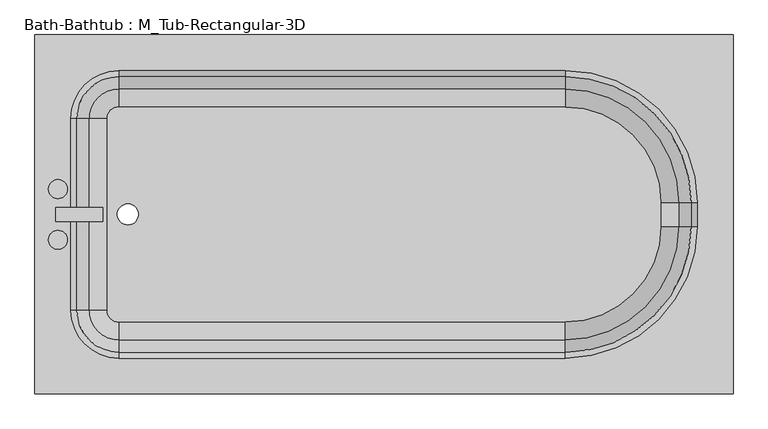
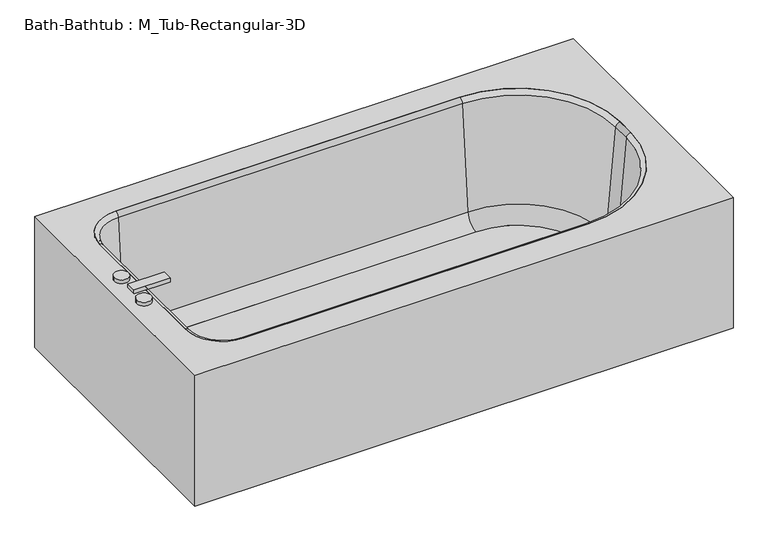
"""IFC4 building model written with IfcOpenShell, lengths in millimetres: flow terminal geometry, Bath-Bathtub : M_Tub-Rectangular-3D."""

from ifc_helpers import new_model, si_unit, point, frame, frame_2d, origin, place, context, project, spatial, polyline, circle_curve, ellipse_curve, trimmed, segment, composite_curve, outline, extrude, source, transform, mapped, element, save
from ifc_brep_helpers import plane_surface, cylinder_surface, revolved_surface, advanced_brep


def bath_bathtub_m_tub_rectangular_3d_991a02ca(model_context):
    return source(origin(), model_context, "Body", "SolidModel", [
        advanced_brep(
        [(368.9470313, -819.15, 380.0), (368.9470313, -57.15, 380.0), (-1110.6029687, -57.15, 380.0), (-1110.6029687, -819.15, 380.0), (-932.8029687, -742.95, 380.0), (-1034.4029687, -641.35, 380.0), (-1034.4029687, -234.95, 380.0), (-932.8029687, -133.35, 380.0), (13.3470313, -133.35, 380.0), (292.7470313, -412.75, 380.0), (292.7470313, -463.55, 380.0), (13.3470313, -742.95, 380.0), (349.8970313, -800.1, 360.95), (-1091.5529687, -800.1, 360.95), (-1091.5529687, -76.2, 360.95), (349.8970313, -76.2, 360.95), (-932.8029687, -742.95, 360.95), (13.3470313, -742.95, 360.95), (292.7470313, -463.55, 360.95), (292.7470313, -412.75, 360.95), (13.3470313, -133.35, 360.95), (-932.8029687, -133.35, 360.95), (-1034.4029687, -234.95, 360.95), (-1034.4029687, -641.35, 360.95), (-1110.6029687, -819.15, 0.0), (368.9470313, -819.15, 0.0), (-1110.6029687, -57.15, 0.0), (368.9470313, -57.15, 0.0), (349.8970313, -800.1, 0.0), (349.8970313, -76.2, 0.0), (-1091.5529687, -76.2, 0.0), (-1091.5529687, -800.1, 0.0)],
        [
            (0, 1),
            (1, 2),
            (2, 3),
            (3, 0),
            (4, 5, circle_curve(frame((-932.8029687, -641.35, 380.0), z_axis=(0.0, 0.0, -1.0), x_axis=(0.0, -1.0, 0.0)), 101.6)),
            (5, 6),
            (6, 7, circle_curve(frame((-932.8029687, -234.95, 380.0), z_axis=(0.0, 0.0, -1.0), x_axis=(0.0, -1.0, 0.0)), 101.6)),
            (7, 8),
            (8, 9, circle_curve(frame((13.3470313, -412.75, 380.0), z_axis=(0.0, 0.0, -1.0), x_axis=(0.0, -1.0, 0.0)), 279.4)),
            (9, 10),
            (10, 11, circle_curve(frame((13.3470313, -463.55, 380.0), z_axis=(0.0, 0.0, -1.0), x_axis=(0.0, -1.0, 0.0)), 279.4)),
            (11, 4),
            (12, 13),
            (13, 14),
            (14, 15),
            (15, 12),
            (16, 17),
            (17, 18, circle_curve(frame((13.3470313, -463.55, 360.95), z_axis=(0.0, 0.0, 1.0), x_axis=(0.0, -1.0, 0.0)), 279.4)),
            (18, 19),
            (19, 20, circle_curve(frame((13.3470313, -412.75, 360.95), z_axis=(0.0, 0.0, 1.0), x_axis=(0.0, -1.0, 0.0)), 279.4)),
            (20, 21),
            (21, 22, circle_curve(frame((-932.8029687, -234.95, 360.95), z_axis=(0.0, 0.0, 1.0), x_axis=(0.0, -1.0, 0.0)), 101.6)),
            (22, 23),
            (23, 16, circle_curve(frame((-932.8029687, -641.35, 360.95), z_axis=(0.0, 0.0, 1.0), x_axis=(0.0, -1.0, 0.0)), 101.6)),
            (3, 24),
            (24, 25),
            (25, 0),
            (2, 26),
            (26, 24),
            (1, 27),
            (27, 26),
            (25, 27),
            (11, 17),
            (16, 4),
            (10, 18),
            (9, 19),
            (8, 20),
            (7, 21),
            (6, 22),
            (5, 23),
            (28, 29),
            (29, 30),
            (30, 31),
            (31, 28),
            (28, 12),
            (15, 29),
            (14, 30),
            (13, 31),
        ],
        [
            plane_surface(frame((-1110.6029687, -819.15, 380.0), z_axis=(0.0, 0.0, 1.0), x_axis=(-1.0, 0.0, 0.0))),
            plane_surface(frame((-1110.6029687, -819.15, 360.95), z_axis=(0.0, 0.0, -1.0), x_axis=(1.0, 0.0, 0.0))),
            plane_surface(frame((368.9470313, -819.15, 380.0), z_axis=(0.0, -1.0, 0.0), x_axis=(0.0, 0.0, -1.0))),
            plane_surface(frame((-1110.6029687, -819.15, 380.0), z_axis=(-1.0, 0.0, 0.0), x_axis=(0.0, 0.0, -1.0))),
            plane_surface(frame((-1110.6029687, -57.15, 380.0), z_axis=(0.0, 1.0, 0.0), x_axis=(0.0, 0.0, -1.0))),
            plane_surface(frame((368.9470313, -57.15, 380.0), z_axis=(1.0, 0.0, 0.0), x_axis=(0.0, 0.0, -1.0))),
            plane_surface(frame((-932.8029687, -742.95, 380.0), z_axis=(0.0, 1.0, 0.0), x_axis=(0.0, 0.0, -1.0))),
            revolved_surface(polyline([(13.3470313, -742.95, 360.95), (13.3470313, -742.95, 380.0)]), (13.3470313, -463.55, 380.0), (0.0, 0.0, -1.0)),
            plane_surface(frame((292.7470313, -463.55, 380.0), z_axis=(-1.0, 0.0, 0.0), x_axis=(0.0, 0.0, -1.0))),
            revolved_surface(polyline([(13.3470313, -692.15, 360.95), (13.3470313, -692.15, 380.0)]), (13.3470313, -412.75, 380.0), (0.0, 0.0, -1.0)),
            plane_surface(frame((13.3470313, -133.35, 380.0), z_axis=(0.0, -1.0, 0.0), x_axis=(0.0, 0.0, -1.0))),
            revolved_surface(polyline([(-932.8029687, -336.54999999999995, 360.95), (-932.8029687, -336.54999999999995, 380.0)]), (-932.8029687, -234.95, 380.0), (0.0, 0.0, -1.0)),
            plane_surface(frame((-1034.4029687, -234.95, 380.0), z_axis=(1.0, 0.0, 0.0), x_axis=(0.0, 0.0, -1.0))),
            revolved_surface(polyline([(-932.8029687, -742.95, 360.95), (-932.8029687, -742.95, 380.0)]), (-932.8029687, -641.35, 380.0), (0.0, 0.0, -1.0)),
            plane_surface(frame((-1110.6029687, -819.15, 0.0), z_axis=(0.0, 0.0, -1.0), x_axis=(1.0, 0.0, 0.0))),
            plane_surface(frame((349.8970313, -800.1, 360.95), z_axis=(-1.0, 0.0, 0.0), x_axis=(0.0, 0.0, -1.0))),
            plane_surface(frame((349.8970313, -76.2, 360.95), z_axis=(0.0, -1.0, 0.0), x_axis=(0.0, 0.0, -1.0))),
            plane_surface(frame((-1091.5529687, -76.2, 360.95), z_axis=(1.0, 0.0, 0.0), x_axis=(0.0, 0.0, -1.0))),
            plane_surface(frame((-1091.5529687, -800.1, 360.95), z_axis=(0.0, 1.0, 0.0), x_axis=(0.0, 0.0, -1.0))),
        ],
        [
            (0, [[1, 2, 3, 4], [5, 6, 7, 8, 9, 10, 11, 12]]),
            (1, [[13, 14, 15, 16], [17, 18, 19, 20, 21, 22, 23, 24]]),
            (2, [[25, 26, 27, -4]]),
            (3, [[28, 29, -25, -3]]),
            (4, [[30, 31, -28, -2]]),
            (5, [[32, -30, -1, -27]]),
            (6, [[33, -17, 34, -12]]),
            (7, [[35, -18, -33, -11]]),
            (8, [[36, -19, -35, -10]]),
            (9, [[37, -20, -36, -9]]),
            (10, [[38, -21, -37, -8]]),
            (11, [[39, -22, -38, -7]]),
            (12, [[40, -23, -39, -6]]),
            (13, [[-34, -24, -40, -5]]),
            (14, [[-26, -29, -31, -32], [41, 42, 43, 44]]),
            (15, [[45, -16, 46, -41]]),
            (16, [[-46, -15, 47, -42]]),
            (17, [[-47, -14, 48, -43]]),
            (18, [[-48, -13, -45, -44]]),
        ],
    ),
        extrude(outline(composite_curve([segment(polyline([(13.3470313, -666.3464741), (-932.8029687, -666.3464741)]), True, "CONTINUOUS"), segment(trimmed(circle_curve(frame_2d((-932.8029687, -641.35)), 24.9964741), [point((-932.8029687, -666.3464741))], [point((-957.7994428, -641.35))], False, "CARTESIAN"), True, "CONTINUOUS"), segment(polyline([(-957.7994428, -641.35), (-957.7994428, -234.95)]), True, "CONTINUOUS"), segment(trimmed(circle_curve(frame_2d((-932.8029687, -234.95)), 24.9964741), [point((-957.7994428, -234.95))], [point((-932.8029687, -209.9535259))], False, "CARTESIAN"), True, "CONTINUOUS"), segment(polyline([(-932.8029687, -209.9535259), (13.3470313, -209.9535259)]), True, "CONTINUOUS"), segment(trimmed(circle_curve(frame_2d((13.3470313, -412.75)), 202.7964741), [point((13.3470313, -209.9535259))], [point((216.1435054, -412.75))], False, "CARTESIAN"), True, "CONTINUOUS"), segment(polyline([(216.1435054, -412.75), (216.1435054, -463.55)]), True, "CONTINUOUS"), segment(trimmed(circle_curve(frame_2d((13.3470313, -463.55)), 202.7964741), [point((216.1435054, -463.55))], [point((13.3470313, -666.3464741))], False, "CARTESIAN"), True, "CONTINUOUS")], self_intersect=False), holes=[composite_curve([segment(trimmed(circle_curve(frame_2d((-913.5971625, -438.15)), 22.225), [point((-913.5971625, -460.375))], [point((-913.5971625, -415.925))], True, "CARTESIAN"), True, "CONTINUOUS"), segment(trimmed(circle_curve(frame_2d((-913.5971625, -438.15)), 22.225), [point((-913.5971625, -415.925))], [point((-913.5971625, -460.375))], True, "CARTESIAN"), True, "CONTINUOUS")], self_intersect=False)]), frame((0.0, 0.0, 15.863573), z_axis=(0.0, 0.0, 1.0), x_axis=(1.0, 0.0, 0.0)), (0.0, 0.0, 1.0), 19.05),
        advanced_brep(
        [(-995.7544608, -641.35, 69.6929392), (-1021.9249722, -641.35, 368.8232535), (-932.8029687, -730.4720035, 368.8232535), (-932.8029687, -704.3014921, 69.6929392), (-957.7994428, -641.35, 34.913573), (-932.8029687, -666.3464741, 34.913573), (-957.7994428, -641.35, 15.863573), (-932.8029687, -666.3464741, 15.863573), (-1034.4029687, -641.35, 15.863573), (-932.8029687, -742.95, 15.863573), (-1034.4029687, -641.35, 380.0), (-932.8029687, -742.95, 380.0), (-995.7544608, -234.95, 69.6929392), (-1021.9249722, -234.95, 368.8232535), (-957.7994428, -234.95, 34.913573), (-957.7994428, -234.95, 15.863573), (-1034.4029687, -234.95, 15.863573), (-1034.4029687, -234.95, 380.0), (-932.8029687, -171.9985079, 69.6929392), (-932.8029687, -145.8279965, 368.8232535), (-932.8029687, -209.9535259, 34.913573), (-932.8029687, -209.9535259, 15.863573), (-932.8029687, -133.35, 15.863573), (-932.8029687, -133.35, 380.0), (13.3470313, -171.9985079, 69.6929392), (13.3470313, -145.8279965, 368.8232535), (13.3470313, -209.9535259, 34.913573), (13.3470313, -209.9535259, 15.863573), (13.3470313, -133.35, 15.863573), (13.3470313, -133.35, 380.0), (254.0985234, -412.75, 69.6929392), (280.2690348, -412.75, 368.8232535), (216.1435054, -412.75, 34.913573), (216.1435054, -412.75, 15.863573), (292.7470313, -412.75, 15.863573), (292.7470313, -412.75, 380.0), (254.0985234, -463.55, 69.6929392), (280.2690348, -463.55, 368.8232535), (216.1435054, -463.55, 34.913573), (216.1435054, -463.55, 15.863573), (292.7470313, -463.55, 15.863573), (292.7470313, -463.55, 380.0), (13.3470313, -704.3014921, 69.6929392), (13.3470313, -730.4720035, 368.8232535), (13.3470313, -666.3464741, 34.913573), (13.3470313, -666.3464741, 15.863573), (13.3470313, -742.95, 15.863573), (13.3470313, -742.95, 380.0)],
        [
            (0, 1),
            (1, 2, circle_curve(frame((-932.8029687, -641.35, 368.8232535), z_axis=(0.0, 0.0, 1.0), x_axis=(0.0, -1.0, 0.0)), 89.1220035)),
            (2, 3),
            (3, 0, circle_curve(frame((-932.8029687, -641.35, 69.6929392), z_axis=(0.0, 0.0, -1.0), x_axis=(0.0, -1.0, 0.0)), 62.9514921)),
            (4, 0, circle_curve(frame((-957.7994428, -641.35, 73.013573), z_axis=(0.0, 1.0, 0.0), x_axis=(1.0, 0.0, 0.0)), 38.1)),
            (3, 5, circle_curve(frame((-932.8029687, -666.3464741, 73.013573), z_axis=(1.0, 0.0, 0.0), x_axis=(0.0, 1.0, 0.0)), 38.1)),
            (5, 4, circle_curve(frame((-932.8029687, -641.35, 34.913573), z_axis=(0.0, 0.0, -1.0), x_axis=(0.0, -1.0, 0.0)), 24.9964741)),
            (6, 4),
            (5, 7),
            (7, 6, circle_curve(frame((-932.8029687, -641.35, 15.863573), z_axis=(0.0, 0.0, -1.0), x_axis=(0.0, -1.0, 0.0)), 24.9964741)),
            (8, 6),
            (7, 9),
            (9, 8, circle_curve(frame((-932.8029687, -641.35, 15.863573), z_axis=(0.0, 0.0, -1.0), x_axis=(0.0, -1.0, 0.0)), 101.6)),
            (10, 8),
            (9, 11),
            (11, 10, circle_curve(frame((-932.8029687, -641.35, 380.0), z_axis=(0.0, 0.0, -1.0), x_axis=(0.0, -1.0, 0.0)), 101.6)),
            (1, 10, circle_curve(frame((-1034.4029687, -641.35, 367.4462547), z_axis=(0.0, -1.0, 0.0), x_axis=(1.0, 0.0, 0.0)), 12.5537453)),
            (11, 2, circle_curve(frame((-932.8029687, -742.95, 367.4462547), z_axis=(-1.0, 0.0, 0.0), x_axis=(0.0, 1.0, 0.0)), 12.5537453)),
            (0, 12),
            (12, 13),
            (13, 1),
            (4, 14),
            (14, 12, circle_curve(frame((-957.7994428, -234.95, 73.013573), z_axis=(0.0, 1.0, 0.0), x_axis=(1.0, 0.0, 0.0)), 38.1)),
            (6, 15),
            (15, 14),
            (8, 16),
            (16, 15),
            (10, 17),
            (17, 16),
            (13, 17, circle_curve(frame((-1034.4029687, -234.95, 367.4462547), z_axis=(0.0, -1.0, 0.0), x_axis=(1.0, 0.0, 0.0)), 12.5537453)),
            (18, 19),
            (19, 13, circle_curve(frame((-932.8029687, -234.95, 368.8232535), z_axis=(0.0, 0.0, 1.0), x_axis=(-1.0, 0.0, 0.0)), 89.1220035)),
            (12, 18, circle_curve(frame((-932.8029687, -234.95, 69.6929392), z_axis=(0.0, 0.0, -1.0), x_axis=(-1.0, 0.0, 0.0)), 62.9514921)),
            (20, 18, circle_curve(frame((-932.8029687, -209.9535259, 73.013573), z_axis=(1.0, 0.0, 0.0), x_axis=(0.0, -1.0, 0.0)), 38.1)),
            (14, 20, circle_curve(frame((-932.8029687, -234.95, 34.913573), z_axis=(0.0, 0.0, -1.0), x_axis=(-1.0, 0.0, 0.0)), 24.9964741)),
            (21, 20),
            (15, 21, circle_curve(frame((-932.8029687, -234.95, 15.863573), z_axis=(0.0, 0.0, -1.0), x_axis=(-1.0, 0.0, 0.0)), 24.9964741)),
            (22, 21),
            (16, 22, circle_curve(frame((-932.8029687, -234.95, 15.863573), z_axis=(0.0, 0.0, -1.0), x_axis=(-1.0, 0.0, 0.0)), 101.6)),
            (23, 22),
            (17, 23, circle_curve(frame((-932.8029687, -234.95, 380.0), z_axis=(0.0, 0.0, -1.0), x_axis=(-1.0, 0.0, 0.0)), 101.6)),
            (19, 23, circle_curve(frame((-932.8029687, -133.35, 367.4462547), z_axis=(-1.0, 0.0, 0.0), x_axis=(0.0, -1.0, 0.0)), 12.5537453)),
            (18, 24),
            (24, 25),
            (25, 19),
            (20, 26),
            (26, 24, circle_curve(frame((13.3470313, -209.9535259, 73.013573), z_axis=(1.0, 0.0, 0.0), x_axis=(0.0, -1.0, 0.0)), 38.1)),
            (21, 27),
            (27, 26),
            (22, 28),
            (28, 27),
            (23, 29),
            (29, 28),
            (25, 29, circle_curve(frame((13.3470313, -133.35, 367.4462547), z_axis=(-1.0, 0.0, 0.0), x_axis=(0.0, -1.0, 0.0)), 12.5537453)),
            (30, 31),
            (31, 25, circle_curve(frame((13.3470313, -412.75, 368.8232535), z_axis=(0.0, 0.0, 1.0), x_axis=(0.0, 1.0, 0.0)), 266.9220035)),
            (24, 30, circle_curve(frame((13.3470313, -412.75, 69.6929392), z_axis=(0.0, 0.0, -1.0), x_axis=(0.0, 1.0, 0.0)), 240.7514921)),
            (32, 30, circle_curve(frame((216.1435054, -412.75, 73.013573), z_axis=(0.0, -1.0, 0.0), x_axis=(-1.0, 0.0, 0.0)), 38.1)),
            (26, 32, circle_curve(frame((13.3470313, -412.75, 34.913573), z_axis=(0.0, 0.0, -1.0), x_axis=(0.0, 1.0, 0.0)), 202.7964741)),
            (33, 32),
            (27, 33, circle_curve(frame((13.3470313, -412.75, 15.863573), z_axis=(0.0, 0.0, -1.0), x_axis=(0.0, 1.0, 0.0)), 202.7964741)),
            (34, 33),
            (28, 34, circle_curve(frame((13.3470313, -412.75, 15.863573), z_axis=(0.0, 0.0, -1.0), x_axis=(0.0, 1.0, 0.0)), 279.4)),
            (35, 34),
            (29, 35, circle_curve(frame((13.3470313, -412.75, 380.0), z_axis=(0.0, 0.0, -1.0), x_axis=(0.0, 1.0, 0.0)), 279.4)),
            (31, 35, circle_curve(frame((292.7470313, -412.75, 367.4462547), z_axis=(0.0, 1.0, 0.0), x_axis=(-1.0, 0.0, 0.0)), 12.5537453)),
            (30, 36),
            (36, 37),
            (37, 31),
            (32, 38),
            (38, 36, circle_curve(frame((216.1435054, -463.55, 73.013573), z_axis=(0.0, -1.0, 0.0), x_axis=(-1.0, 0.0, 0.0)), 38.1)),
            (33, 39),
            (39, 38),
            (34, 40),
            (40, 39),
            (35, 41),
            (41, 40),
            (37, 41, circle_curve(frame((292.7470313, -463.55, 367.4462547), z_axis=(0.0, 1.0, 0.0), x_axis=(-1.0, 0.0, 0.0)), 12.5537453)),
            (42, 43),
            (43, 37, circle_curve(frame((13.3470313, -463.55, 368.8232535), z_axis=(0.0, 0.0, 1.0), x_axis=(1.0, 0.0, 0.0)), 266.9220035)),
            (36, 42, circle_curve(frame((13.3470313, -463.55, 69.6929392), z_axis=(0.0, 0.0, -1.0), x_axis=(1.0, 0.0, 0.0)), 240.7514921)),
            (44, 42, circle_curve(frame((13.3470313, -666.3464741, 73.013573), z_axis=(-1.0, 0.0, 0.0), x_axis=(0.0, 1.0, 0.0)), 38.1)),
            (38, 44, circle_curve(frame((13.3470313, -463.55, 34.913573), z_axis=(0.0, 0.0, -1.0), x_axis=(1.0, 0.0, 0.0)), 202.7964741)),
            (45, 44),
            (39, 45, circle_curve(frame((13.3470313, -463.55, 15.863573), z_axis=(0.0, 0.0, -1.0), x_axis=(1.0, 0.0, 0.0)), 202.7964741)),
            (46, 45),
            (40, 46, circle_curve(frame((13.3470313, -463.55, 15.863573), z_axis=(0.0, 0.0, -1.0), x_axis=(1.0, 0.0, 0.0)), 279.4)),
            (47, 46),
            (41, 47, circle_curve(frame((13.3470313, -463.55, 380.0), z_axis=(0.0, 0.0, -1.0), x_axis=(1.0, 0.0, 0.0)), 279.4)),
            (43, 47, circle_curve(frame((13.3470313, -742.95, 367.4462547), z_axis=(1.0, 0.0, 0.0), x_axis=(0.0, 1.0, 0.0)), 12.5537453)),
            (42, 3),
            (2, 43),
            (44, 5),
            (45, 7),
            (46, 9),
            (47, 11),
        ],
        [
            revolved_surface(polyline([(-932.8029687, -730.4720035, 368.8232535), (-932.8029687, -704.3014921, 69.6929392)]), (-932.8029687, -641.35, 380.0), (0.0, 0.0, 1.0)),
            revolved_surface(trimmed(ellipse_curve(frame((-932.8029687, -666.3464741, 73.013573), z_axis=(1.0, 0.0, 0.0), x_axis=(0.0, 1.0, 0.0)), 38.1, 38.1), [point((-932.8029687, -704.3014921, 69.6929392))], [point((-932.8029687, -666.3464741, 34.913573))], True, "CARTESIAN"), (-932.8029687, -641.35, 380.0), (0.0, 0.0, 1.0)),
            revolved_surface(polyline([(-932.8029687, -666.3464741, 34.913572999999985), (-932.8029687, -666.3464741, 15.863572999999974)]), (-932.8029687, -641.35, 380.0), (0.0, 0.0, 1.0)),
            plane_surface(frame((-932.8029687, -641.35, 15.863573), z_axis=(0.0, 0.0, -1.0), x_axis=(0.0, -1.0, 0.0))),
            cylinder_surface(frame((-932.8029687, -641.35, 380.0), z_axis=(0.0, 0.0, 1.0), x_axis=(0.0, -1.0, 0.0)), 101.6),
            revolved_surface(trimmed(ellipse_curve(frame((-932.8029687, -742.95, 367.4462547), z_axis=(-1.0, 0.0, 0.0), x_axis=(0.0, 1.0, 0.0)), 12.5537453, 12.5537453), [point((-932.8029687, -742.95, 380.0))], [point((-932.8029687, -730.4720035, 368.8232535))], True, "CARTESIAN"), (-932.8029687, -641.35, 380.0), (0.0, 0.0, 1.0)),
            plane_surface(frame((-1021.9249722, -641.35, 368.8232535), z_axis=(0.9961946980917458, 0.0, 0.08715574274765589), x_axis=(0.0, 1.0, 0.0))),
            revolved_surface(polyline([(-919.6994427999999, -234.95, 73.013573), (-919.6994427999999, -641.35, 73.013573)]), (-957.7994428, -641.35, 73.013573), (0.0, 1.0, 0.0)),
            plane_surface(frame((-957.7994428, -641.35, 34.913573), z_axis=(1.0, 0.0, 0.0), x_axis=(0.0, 1.0, 0.0))),
            plane_surface(frame((-957.7994428, -641.35, 15.863573), z_axis=(0.0, 0.0, -1.0), x_axis=(0.0, 1.0, 0.0))),
            plane_surface(frame((-1034.4029687, -641.35, 15.863573), z_axis=(-1.0, 0.0, 0.0), x_axis=(0.0, 1.0, 0.0))),
            cylinder_surface(frame((-1034.4029687, -641.35, 367.4462547), z_axis=(0.0, -1.0, 0.0), x_axis=(1.0, 0.0, 0.0)), 12.5537453),
            revolved_surface(polyline([(-1021.9249722, -234.95, 368.8232535), (-995.7544608, -234.95, 69.6929392)]), (-932.8029687, -234.95, 380.0), (0.0, 0.0, 1.0)),
            revolved_surface(trimmed(ellipse_curve(frame((-957.7994428, -234.95, 73.013573), z_axis=(0.0, -1.0, 0.0), x_axis=(1.0, 0.0, 0.0)), 38.1, 38.1), [point((-995.7544608, -234.95, 69.6929392))], [point((-957.7994428, -234.95, 34.913573))], True, "CARTESIAN"), (-932.8029687, -234.95, 380.0), (0.0, 0.0, 1.0)),
            revolved_surface(polyline([(-957.7994428, -234.95, 34.913572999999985), (-957.7994428, -234.95, 15.863572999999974)]), (-932.8029687, -234.95, 380.0), (0.0, 0.0, 1.0)),
            plane_surface(frame((-932.8029687, -234.95, 15.863573), z_axis=(0.0, 0.0, -1.0), x_axis=(-1.0, 0.0, 0.0))),
            cylinder_surface(frame((-932.8029687, -234.95, 380.0), z_axis=(0.0, 0.0, 1.0), x_axis=(-1.0, 0.0, 0.0)), 101.6),
            revolved_surface(trimmed(ellipse_curve(frame((-1034.4029687, -234.95, 367.4462547), z_axis=(0.0, 1.0, 0.0), x_axis=(1.0, 0.0, 0.0)), 12.5537453, 12.5537453), [point((-1034.4029687, -234.95, 380.0))], [point((-1021.9249722, -234.95, 368.8232535))], True, "CARTESIAN"), (-932.8029687, -234.95, 380.0), (0.0, 0.0, 1.0)),
            plane_surface(frame((-932.8029687, -145.8279965, 368.8232535), z_axis=(0.0, -0.9961946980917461, 0.08715574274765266), x_axis=(1.0, 0.0, 0.0))),
            revolved_surface(polyline([(13.347031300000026, -248.05352589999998, 73.013573), (-932.8029687, -248.05352589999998, 73.013573)]), (-932.8029687, -209.9535259, 73.013573), (1.0, 0.0, 0.0)),
            plane_surface(frame((-932.8029687, -209.9535259, 34.913573), z_axis=(0.0, -1.0, 0.0), x_axis=(1.0, 0.0, 0.0))),
            plane_surface(frame((-932.8029687, -209.9535259, 15.863573), z_axis=(0.0, 0.0, -1.0), x_axis=(1.0, 0.0, 0.0))),
            plane_surface(frame((-932.8029687, -133.35, 15.863573), z_axis=(0.0, 1.0, 0.0), x_axis=(1.0, 0.0, 0.0))),
            cylinder_surface(frame((-932.8029687, -133.35, 367.4462547), z_axis=(-1.0, 0.0, 0.0), x_axis=(0.0, -1.0, 0.0)), 12.5537453),
            revolved_surface(polyline([(13.3470313, -145.8279965, 368.8232535), (13.3470313, -171.9985079, 69.6929392)]), (13.3470313, -412.75, 380.0), (0.0, 0.0, 1.0)),
            revolved_surface(trimmed(ellipse_curve(frame((13.3470313, -209.9535259, 73.013573), z_axis=(-1.0, 0.0, 0.0), x_axis=(0.0, -1.0, 0.0)), 38.1, 38.1), [point((13.3470313, -171.9985079, 69.6929392))], [point((13.3470313, -209.9535259, 34.913573))], True, "CARTESIAN"), (13.3470313, -412.75, 380.0), (0.0, 0.0, 1.0)),
            revolved_surface(polyline([(13.3470313, -209.9535259, 34.913572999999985), (13.3470313, -209.9535259, 15.863572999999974)]), (13.3470313, -412.75, 380.0), (0.0, 0.0, 1.0)),
            plane_surface(frame((13.3470313, -412.75, 15.863573), z_axis=(0.0, 0.0, -1.0), x_axis=(0.0, 1.0, 0.0))),
            cylinder_surface(frame((13.3470313, -412.75, 380.0), z_axis=(0.0, 0.0, 1.0), x_axis=(0.0, 1.0, 0.0)), 279.4),
            revolved_surface(trimmed(ellipse_curve(frame((13.3470313, -133.35, 367.4462547), z_axis=(1.0, 0.0, 0.0), x_axis=(0.0, -1.0, 0.0)), 12.5537453, 12.5537453), [point((13.3470313, -133.35, 380.0))], [point((13.3470313, -145.8279965, 368.8232535))], True, "CARTESIAN"), (13.3470313, -412.75, 380.0), (0.0, 0.0, 1.0)),
            plane_surface(frame((280.2690348, -412.75, 368.8232535), z_axis=(-0.9961946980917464, 0.0, 0.08715574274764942), x_axis=(0.0, -1.0, 0.0))),
            revolved_surface(polyline([(178.04350540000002, -463.55, 73.013573), (178.04350540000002, -412.75, 73.013573)]), (216.1435054, -412.75, 73.013573), (0.0, -1.0, 0.0)),
            plane_surface(frame((216.1435054, -412.75, 34.913573), z_axis=(-1.0, 0.0, 0.0), x_axis=(0.0, -1.0, 0.0))),
            plane_surface(frame((216.1435054, -412.75, 15.863573), z_axis=(0.0, 0.0, -1.0), x_axis=(0.0, -1.0, 0.0))),
            plane_surface(frame((292.7470313, -412.75, 15.863573), z_axis=(1.0, 0.0, 0.0), x_axis=(0.0, -1.0, 0.0))),
            cylinder_surface(frame((292.7470313, -412.75, 367.4462547), z_axis=(0.0, 1.0, 0.0), x_axis=(-1.0, 0.0, 0.0)), 12.5537453),
            revolved_surface(polyline([(280.2690348, -463.55, 368.8232535), (254.0985234, -463.55, 69.6929392)]), (13.3470313, -463.55, 380.0), (0.0, 0.0, 1.0)),
            revolved_surface(trimmed(ellipse_curve(frame((216.1435054, -463.55, 73.013573), z_axis=(0.0, 1.0, 0.0), x_axis=(-1.0, 0.0, 0.0)), 38.1, 38.1), [point((254.0985234, -463.55, 69.6929392))], [point((216.1435054, -463.55, 34.913573))], True, "CARTESIAN"), (13.3470313, -463.55, 380.0), (0.0, 0.0, 1.0)),
            revolved_surface(polyline([(216.1435054, -463.55, 34.913572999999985), (216.1435054, -463.55, 15.863572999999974)]), (13.3470313, -463.55, 380.0), (0.0, 0.0, 1.0)),
            plane_surface(frame((13.3470313, -463.55, 15.863573), z_axis=(0.0, 0.0, -1.0), x_axis=(1.0, 0.0, 0.0))),
            cylinder_surface(frame((13.3470313, -463.55, 380.0), z_axis=(0.0, 0.0, 1.0), x_axis=(1.0, 0.0, 0.0)), 279.4),
            revolved_surface(trimmed(ellipse_curve(frame((292.7470313, -463.55, 367.4462547), z_axis=(0.0, -1.0, 0.0), x_axis=(-1.0, 0.0, 0.0)), 12.5537453, 12.5537453), [point((292.7470313, -463.55, 380.0))], [point((280.2690348, -463.55, 368.8232535))], True, "CARTESIAN"), (13.3470313, -463.55, 380.0), (0.0, 0.0, 1.0)),
            plane_surface(frame((13.3470313, -730.4720035, 368.8232535), z_axis=(0.0, 0.9961946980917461, 0.08715574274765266), x_axis=(-1.0, 0.0, 0.0))),
            revolved_surface(polyline([(-932.8029687, -628.2464741, 73.013573), (13.3470313, -628.2464741, 73.013573)]), (13.3470313, -666.3464741, 73.013573), (-1.0, 0.0, 0.0)),
            plane_surface(frame((13.3470313, -666.3464741, 34.913573), z_axis=(0.0, 1.0, 0.0), x_axis=(-1.0, 0.0, 0.0))),
            plane_surface(frame((13.3470313, -666.3464741, 15.863573), z_axis=(0.0, 0.0, -1.0), x_axis=(-1.0, 0.0, 0.0))),
            plane_surface(frame((13.3470313, -742.95, 15.863573), z_axis=(0.0, -1.0, 0.0), x_axis=(-1.0, 0.0, 0.0))),
            cylinder_surface(frame((13.3470313, -742.95, 367.4462547), z_axis=(1.0, 0.0, 0.0), x_axis=(0.0, 1.0, 0.0)), 12.5537453),
        ],
        [
            (0, [[1, 2, 3, 4]]),
            (1, [[5, -4, 6, 7]]),
            (2, [[8, -7, 9, 10]]),
            (3, [[11, -10, 12, 13]]),
            (4, [[14, -13, 15, 16]]),
            (5, [[17, -16, 18, -2]]),
            (6, [[19, 20, 21, -1]]),
            (7, [[22, 23, -19, -5]]),
            (8, [[24, 25, -22, -8]]),
            (9, [[26, 27, -24, -11]]),
            (10, [[28, 29, -26, -14]]),
            (11, [[-21, 30, -28, -17]]),
            (12, [[31, 32, -20, 33]]),
            (13, [[34, -33, -23, 35]]),
            (14, [[36, -35, -25, 37]]),
            (15, [[38, -37, -27, 39]]),
            (16, [[40, -39, -29, 41]]),
            (17, [[42, -41, -30, -32]]),
            (18, [[43, 44, 45, -31]]),
            (19, [[46, 47, -43, -34]]),
            (20, [[48, 49, -46, -36]]),
            (21, [[50, 51, -48, -38]]),
            (22, [[52, 53, -50, -40]]),
            (23, [[-45, 54, -52, -42]]),
            (24, [[55, 56, -44, 57]]),
            (25, [[58, -57, -47, 59]]),
            (26, [[60, -59, -49, 61]]),
            (27, [[62, -61, -51, 63]]),
            (28, [[64, -63, -53, 65]]),
            (29, [[66, -65, -54, -56]]),
            (30, [[67, 68, 69, -55]]),
            (31, [[70, 71, -67, -58]]),
            (32, [[72, 73, -70, -60]]),
            (33, [[74, 75, -72, -62]]),
            (34, [[76, 77, -74, -64]]),
            (35, [[-69, 78, -76, -66]]),
            (36, [[79, 80, -68, 81]]),
            (37, [[82, -81, -71, 83]]),
            (38, [[84, -83, -73, 85]]),
            (39, [[86, -85, -75, 87]]),
            (40, [[88, -87, -77, 89]]),
            (41, [[90, -89, -78, -80]]),
            (42, [[91, -3, 92, -79]]),
            (43, [[93, -6, -91, -82]]),
            (44, [[94, -9, -93, -84]]),
            (45, [[95, -12, -94, -86]]),
            (46, [[96, -15, -95, -88]]),
            (47, [[-92, -18, -96, -90]]),
        ],
    ),
        extrude(outline(polyline([(-1066.8328759, -453.15), (-1066.8328759, -423.15), (-966.8328759, -423.15), (-966.8328759, -453.15), (-1066.8328759, -453.15)])), frame((0.0, 0.0, 380.0), z_axis=(0.0, 0.0, 1.0), x_axis=(1.0, 0.0, 0.0)), (0.0, 0.0, 1.0), 10.6738596),
        extrude(outline(composite_curve([segment(trimmed(circle_curve(frame_2d((-1061.8660369, -491.8447376)), 20.0), [point((-1041.8660369, -491.8447376))], [point((-1081.8660369, -491.8447376))], False, "CARTESIAN"), True, "CONTINUOUS"), segment(trimmed(circle_curve(frame_2d((-1061.8660369, -491.8447376)), 20.0), [point((-1081.8660369, -491.8447376))], [point((-1041.8660369, -491.8447376))], False, "CARTESIAN"), True, "CONTINUOUS")], self_intersect=False)), frame((0.0, 0.0, 380.0), z_axis=(0.0, 0.0, 1.0), x_axis=(1.0, 0.0, 0.0)), (0.0, 0.0, 1.0), 10.6738596),
        extrude(outline(composite_curve([segment(trimmed(circle_curve(frame_2d((-1061.8660369, -384.4552624)), 20.0), [point((-1041.8660369, -384.4552624))], [point((-1081.8660369, -384.4552624))], False, "CARTESIAN"), True, "CONTINUOUS"), segment(trimmed(circle_curve(frame_2d((-1061.8660369, -384.4552624)), 20.0), [point((-1081.8660369, -384.4552624))], [point((-1041.8660369, -384.4552624))], False, "CARTESIAN"), True, "CONTINUOUS")], self_intersect=False)), frame((0.0, 0.0, 380.0), z_axis=(0.0, 0.0, 1.0), x_axis=(1.0, 0.0, 0.0)), (0.0, 0.0, 1.0), 10.6738596),
    ])


if __name__ == "__main__":
    model = new_model("IFC4")
    model_context = context("Model", 3, world=origin())
    ifc_project = project(units=[si_unit("LENGTHUNIT", "METRE", prefix="MILLI")], contexts=[model_context])
    site = spatial("IfcSite", under=ifc_project)
    building = spatial("IfcBuilding", under=site)
    placement = place(None, origin())
    bath_bathtub_m_tub_rectangular_3d_shape = bath_bathtub_m_tub_rectangular_3d_991a02ca(model_context)
    element("IfcFlowTerminal", 1, ObjectType="Bath-Bathtub : M_Tub-Rectangular-3D", at=placement, inside=building, context=model_context, shape_type="MappedRepresentation", body=[
        mapped(bath_bathtub_m_tub_rectangular_3d_shape, transform((0.0, 0.0, 0.0), x_axis=(1.0, 0.0, 0.0), y_axis=(0.0, 1.0, 0.0), z_axis=(0.0, 0.0, 1.0))),
    ])
    save(model, "model.ifc")
